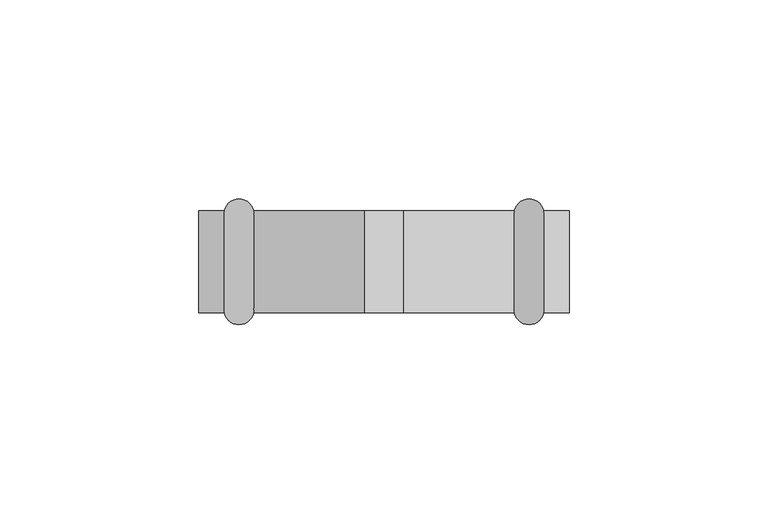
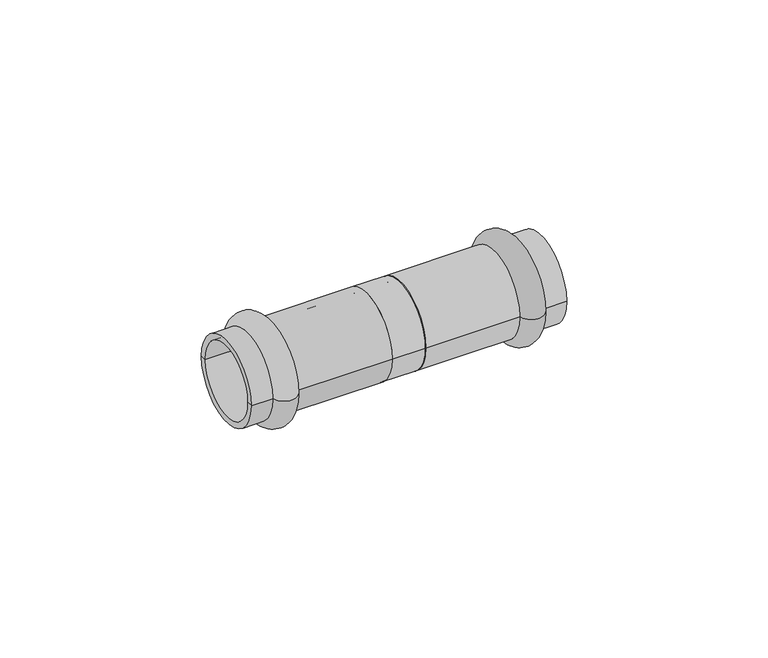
"""IFC4 building model written with IfcOpenShell, lengths in millimetres: pipe fitting geometry, VALTEC_VTi.904.I_Удлинитель_Нержавеющая сталь : VTi.904.I."""

from ifc_helpers import new_model, si_unit, point, frame, origin, origin_2d, place, context, project, spatial, polyline, circle_curve, ellipse_curve, trimmed, segment, composite_curve, outline, extrude, source, transform, mapped, element, save
from ifc_brep_helpers import plane_surface, cylinder_surface, revolved_surface, advanced_brep


def pipe_fitting_4b56ced1(model_context):
    return source(origin(), model_context, "Body", "SolidModel", [
        advanced_brep(
        [(40.1242346, -12.8, 0.0), (32.7757654, -12.8, 0.0), (32.7757654, 12.8, 0.0), (40.1242346, 12.8, 0.0), (46.5, -12.8, 0.0), (46.5, 12.8, 0.0), (46.5, -11.0, 0.0), (46.5, 11.0, 0.0), (5.0, -11.0, 0.0), (5.0, 11.0, 0.0), (5.0, -12.8, 0.0), (5.0, 12.8, 0.0)],
        [
            (0, 1, circle_curve(frame((36.45, -12.05, 0.0), z_axis=(0.0, 0.0, -1.0), x_axis=(-1.0, 0.0, 0.0)), 3.75)),
            (1, 2, circle_curve(frame((32.7757654, 0.0, 0.0), z_axis=(1.0, 0.0, 0.0), x_axis=(0.0, 1.0, 0.0)), 12.8)),
            (2, 3, circle_curve(frame((36.45, 12.05, 0.0), z_axis=(0.0, 0.0, -1.0), x_axis=(-1.0, 0.0, 0.0)), 3.75)),
            (3, 0, circle_curve(frame((40.1242346, 0.0, 0.0), z_axis=(-1.0, 0.0, 0.0), x_axis=(0.0, 1.0, 0.0)), 12.8)),
            (2, 1, circle_curve(frame((32.7757654, 0.0, 0.0), z_axis=(1.0, 0.0, 0.0), x_axis=(0.0, 1.0, 0.0)), 12.8)),
            (0, 3, circle_curve(frame((40.1242346, 0.0, 0.0), z_axis=(-1.0, 0.0, 0.0), x_axis=(0.0, 1.0, 0.0)), 12.8)),
            (4, 0),
            (3, 5),
            (5, 4, circle_curve(frame((46.5, 0.0, 0.0), z_axis=(-1.0, 0.0, 0.0), x_axis=(0.0, 1.0, 0.0)), 12.8)),
            (4, 5, circle_curve(frame((46.5, 0.0, 0.0), z_axis=(-1.0, 0.0, 0.0), x_axis=(0.0, 1.0, 0.0)), 12.8)),
            (6, 4),
            (5, 7),
            (7, 6, circle_curve(frame((46.5, 0.0, 0.0), z_axis=(-1.0, 0.0, 0.0), x_axis=(0.0, 1.0, 0.0)), 11.0)),
            (6, 7, circle_curve(frame((46.5, 0.0, 0.0), z_axis=(-1.0, 0.0, 0.0), x_axis=(0.0, 1.0, 0.0)), 11.0)),
            (8, 6),
            (7, 9),
            (9, 8, circle_curve(frame((5.0, 0.0, 0.0), z_axis=(-1.0, 0.0, 0.0), x_axis=(0.0, 1.0, 0.0)), 11.0)),
            (8, 9, circle_curve(frame((5.0, 0.0, 0.0), z_axis=(-1.0, 0.0, 0.0), x_axis=(0.0, 1.0, 0.0)), 11.0)),
            (10, 8),
            (9, 11),
            (11, 10, circle_curve(frame((5.0, 0.0, 0.0), z_axis=(-1.0, 0.0, 0.0), x_axis=(0.0, 1.0, 0.0)), 12.8)),
            (10, 11, circle_curve(frame((5.0, 0.0, 0.0), z_axis=(-1.0, 0.0, 0.0), x_axis=(0.0, 1.0, 0.0)), 12.8)),
            (1, 10),
            (11, 2),
        ],
        [
            revolved_surface(trimmed(ellipse_curve(frame((36.45, 12.05, 0.0), z_axis=(0.0, 0.0, -1.0), x_axis=(-1.0, 0.0, 0.0)), 3.75, 3.75), [point((32.7757654, 12.8, 0.0))], [point((40.1242346, 12.8, 0.0))], True, "CARTESIAN"), (50.0364426, 0.0, 0.0), (1.0, 0.0, 0.0)),
            cylinder_surface(frame((50.0364426, 0.0, 0.0), z_axis=(1.0, 0.0, 0.0), x_axis=(0.0, 1.0, 0.0)), 12.8),
            plane_surface(frame((46.5, 0.0, 0.0), z_axis=(1.0, 0.0, 0.0), x_axis=(0.0, 1.0, 0.0))),
            revolved_surface(polyline([(46.5, 11.0, 0.0), (5.0, 11.0, 0.0)]), (50.0364426, 0.0, 0.0), (1.0, 0.0, 0.0)),
            plane_surface(frame((5.0, 0.0, 0.0), z_axis=(-1.0, 0.0, 0.0), x_axis=(0.0, 1.0, 0.0))),
        ],
        [
            (0, [[1, 2, 3, 4]]),
            (0, [[-3, 5, -1, 6]]),
            (1, [[7, -4, 8, 9]]),
            (1, [[-8, -6, -7, 10]]),
            (2, [[11, -9, 12, 13]]),
            (2, [[-12, -10, -11, 14]]),
            (3, [[15, -13, 16, 17]]),
            (3, [[-16, -14, -15, 18]]),
            (4, [[19, -17, 20, 21]]),
            (4, [[-20, -18, -19, 22]]),
            (1, [[23, -21, 24, -2]]),
            (1, [[-24, -22, -23, -5]]),
        ],
    ),
        advanced_brep(
        [(-40.1242346, -12.8, 0.0), (-40.1242346, 12.8, 0.0), (-32.7757654, 12.8, 0.0), (-32.7757654, -12.8, 0.0), (-46.5, -12.8, 0.0), (-46.5, 12.8, 0.0), (-46.5, -11.0, 0.0), (-46.5, 11.0, 0.0), (-5.0, -11.0, 0.0), (-5.0, 11.0, 0.0), (-5.0, -12.8, 0.0), (-5.0, 12.8, 0.0)],
        [
            (0, 1, circle_curve(frame((-40.1242346, 0.0, 0.0), z_axis=(1.0, 0.0, 0.0), x_axis=(0.0, 1.0, 0.0)), 12.8)),
            (1, 2, circle_curve(frame((-36.45, 12.05, 0.0), z_axis=(0.0, 0.0, -1.0), x_axis=(1.0, 0.0, 0.0)), 3.75)),
            (2, 3, circle_curve(frame((-32.7757654, 0.0, 0.0), z_axis=(-1.0, 0.0, 0.0), x_axis=(0.0, 1.0, 0.0)), 12.8)),
            (3, 0, circle_curve(frame((-36.45, -12.05, 0.0), z_axis=(0.0, 0.0, -1.0), x_axis=(1.0, 0.0, 0.0)), 3.75)),
            (1, 0, circle_curve(frame((-40.1242346, 0.0, 0.0), z_axis=(1.0, 0.0, 0.0), x_axis=(0.0, 1.0, 0.0)), 12.8)),
            (3, 2, circle_curve(frame((-32.7757654, 0.0, 0.0), z_axis=(-1.0, 0.0, 0.0), x_axis=(0.0, 1.0, 0.0)), 12.8)),
            (4, 5, circle_curve(frame((-46.5, 0.0, 0.0), z_axis=(1.0, 0.0, 0.0), x_axis=(0.0, 1.0, 0.0)), 12.8)),
            (5, 1),
            (0, 4),
            (5, 4, circle_curve(frame((-46.5, 0.0, 0.0), z_axis=(1.0, 0.0, 0.0), x_axis=(0.0, 1.0, 0.0)), 12.8)),
            (6, 7, circle_curve(frame((-46.5, 0.0, 0.0), z_axis=(1.0, 0.0, 0.0), x_axis=(0.0, 1.0, 0.0)), 11.0)),
            (7, 5),
            (4, 6),
            (7, 6, circle_curve(frame((-46.5, 0.0, 0.0), z_axis=(1.0, 0.0, 0.0), x_axis=(0.0, 1.0, 0.0)), 11.0)),
            (8, 9, circle_curve(frame((-5.0, 0.0, 0.0), z_axis=(1.0, 0.0, 0.0), x_axis=(0.0, 1.0, 0.0)), 11.0)),
            (9, 7),
            (6, 8),
            (9, 8, circle_curve(frame((-5.0, 0.0, 0.0), z_axis=(1.0, 0.0, 0.0), x_axis=(0.0, 1.0, 0.0)), 11.0)),
            (10, 11, circle_curve(frame((-5.0, 0.0, 0.0), z_axis=(1.0, 0.0, 0.0), x_axis=(0.0, 1.0, 0.0)), 12.8)),
            (11, 9),
            (8, 10),
            (11, 10, circle_curve(frame((-5.0, 0.0, 0.0), z_axis=(1.0, 0.0, 0.0), x_axis=(0.0, 1.0, 0.0)), 12.8)),
            (2, 11),
            (10, 3),
        ],
        [
            revolved_surface(trimmed(ellipse_curve(frame((-36.45, 12.05, 0.0), z_axis=(0.0, 0.0, 1.0), x_axis=(1.0, 0.0, 0.0)), 3.75, 3.75), [point((-32.7757654, 12.8, 0.0))], [point((-40.1242346, 12.8, 0.0))], True, "CARTESIAN"), (-50.0364426, 0.0, 0.0), (-1.0, 0.0, 0.0)),
            cylinder_surface(frame((-50.0364426, 0.0, 0.0), z_axis=(-1.0, 0.0, 0.0), x_axis=(0.0, 1.0, 0.0)), 12.8),
            plane_surface(frame((-46.5, 0.0, 0.0), z_axis=(-1.0, 0.0, 0.0), x_axis=(0.0, 1.0, 0.0))),
            revolved_surface(polyline([(-46.5, 11.0, 0.0), (-5.0, 11.0, 0.0)]), (-50.0364426, 0.0, 0.0), (-1.0, 0.0, 0.0)),
            plane_surface(frame((-5.0, 0.0, 0.0), z_axis=(1.0, 0.0, 0.0), x_axis=(0.0, 1.0, 0.0))),
        ],
        [
            (0, [[1, 2, 3, 4]]),
            (0, [[5, -4, 6, -2]]),
            (1, [[7, 8, -1, 9]]),
            (1, [[10, -9, -5, -8]]),
            (2, [[11, 12, -7, 13]]),
            (2, [[14, -13, -10, -12]]),
            (3, [[15, 16, -11, 17]]),
            (3, [[18, -17, -14, -16]]),
            (4, [[19, 20, -15, 21]]),
            (4, [[22, -21, -18, -20]]),
            (1, [[-3, 23, -19, 24]]),
            (1, [[-6, -24, -22, -23]]),
        ],
    ),
        extrude(outline(composite_curve([segment(trimmed(circle_curve(origin_2d(), 12.8), [point((-12.8, 0.0))], [point((12.8, 0.0))], False, "CARTESIAN"), True, "CONTINUOUS"), segment(trimmed(circle_curve(origin_2d(), 12.8), [point((12.8, 0.0))], [point((-12.8, 0.0))], False, "CARTESIAN"), True, "CONTINUOUS")], self_intersect=False), holes=[composite_curve([segment(trimmed(circle_curve(origin_2d(), 11.0), [point((-11.0, 0.0))], [point((11.0, 0.0))], True, "CARTESIAN"), True, "CONTINUOUS"), segment(trimmed(circle_curve(origin_2d(), 11.0), [point((11.0, 0.0))], [point((-11.0, 0.0))], True, "CARTESIAN"), True, "CONTINUOUS")], self_intersect=False)]), frame((-5.0, 0.0, 0.0), z_axis=(1.0, 0.0, 0.0), x_axis=(0.0, 1.0, 0.0)), (0.0, 0.0, 1.0), 10.0),
    ])


if __name__ == "__main__":
    model = new_model("IFC4")
    model_context = context("Model", 3, world=origin())
    ifc_project = project(units=[si_unit("LENGTHUNIT", "METRE", prefix="MILLI")], contexts=[model_context])
    site = spatial("IfcSite", under=ifc_project)
    building = spatial("IfcBuilding", under=site)
    placement = place(None, origin())
    pipe_fitting_shape = pipe_fitting_4b56ced1(model_context)
    element("IfcPipeFitting", 1, ObjectType="VALTEC_VTi.904.I_Удлинитель_Нержавеющая сталь : VTi.904.I", at=placement, inside=building, context=model_context, shape_type="MappedRepresentation", body=[
        mapped(pipe_fitting_shape, transform((0.0, 0.0, 0.0), x_axis=(1.0, 0.0, 0.0), y_axis=(0.0, 1.0, 0.0), z_axis=(0.0, 0.0, 1.0))),
    ])
    save(model, "model.ifc")
